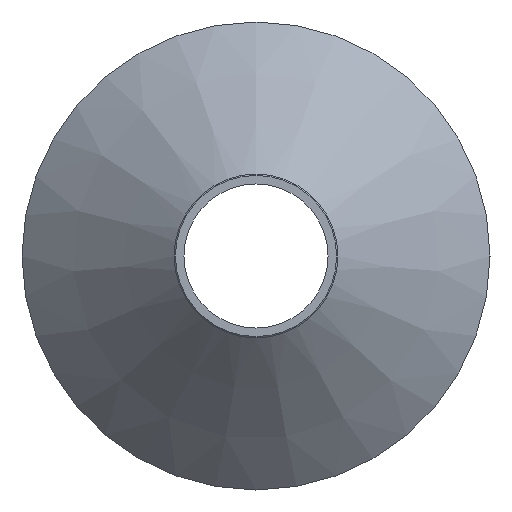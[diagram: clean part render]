
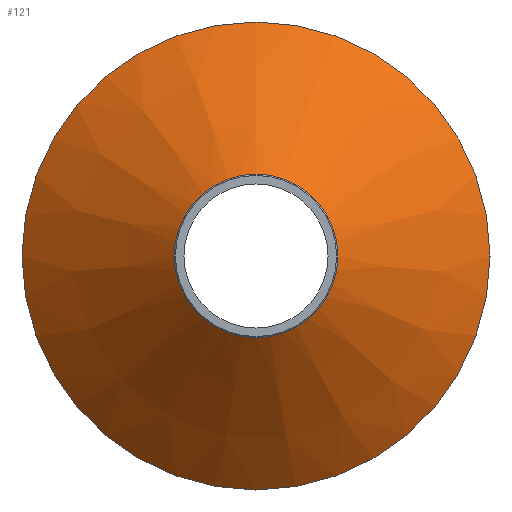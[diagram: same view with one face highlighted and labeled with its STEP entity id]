
A CAD part, left-side view. The second image highlights one B-rep face of the part: STEP entity #121.
In plain terms, the highlighted conical face has half-angle 48.366 degrees and reference radius 90 mm.
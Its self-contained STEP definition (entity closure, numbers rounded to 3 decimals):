
#22=CONICAL_SURFACE('',#146,90.,0.844);
#28=ORIENTED_EDGE('',*,*,#48,.F.);
#29=ORIENTED_EDGE('',*,*,#47,.T.);
#47=EDGE_CURVE('',#57,#57,#67,.T.);
#48=EDGE_CURVE('',#58,#58,#68,.T.);
#57=VERTEX_POINT('',#210);
#58=VERTEX_POINT('',#213);
#67=CIRCLE('',#145,90.);
#68=CIRCLE('',#147,31.5);
#78=EDGE_LOOP('',(#28));
#79=EDGE_LOOP('',(#29));
#98=FACE_BOUND('',#78,.T.);
#99=FACE_BOUND('',#79,.T.);
#121=ADVANCED_FACE('',(#98,#99),#22,.T.);
#145=AXIS2_PLACEMENT_3D('',#209,#169,#170);
#146=AXIS2_PLACEMENT_3D('',#211,#171,#172);
#147=AXIS2_PLACEMENT_3D('',#212,#173,#174);
#169=DIRECTION('',(-1.,0.,0.));
#170=DIRECTION('',(0.,0.,1.));
#171=DIRECTION('',(1.,0.,0.));
#172=DIRECTION('',(0.,0.,-1.));
#173=DIRECTION('',(-1.,0.,0.));
#174=DIRECTION('',(0.,0.,1.));
#209=CARTESIAN_POINT('',(26.,0.,0.));
#210=CARTESIAN_POINT('',(26.,0.,90.));
#211=CARTESIAN_POINT('',(26.,0.,0.));
#212=CARTESIAN_POINT('',(-26.,0.,0.));
#213=CARTESIAN_POINT('',(-26.,0.,31.5));
